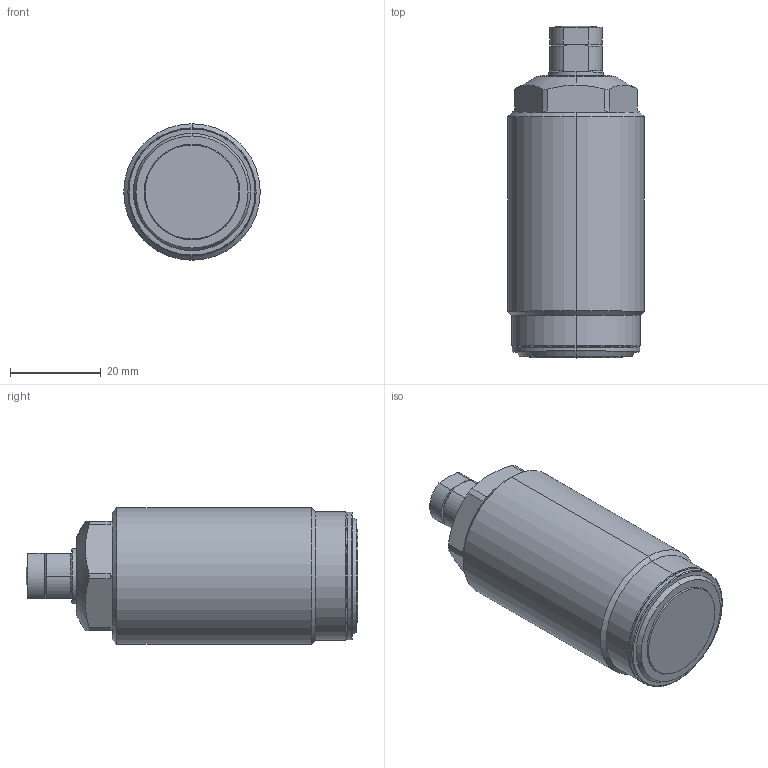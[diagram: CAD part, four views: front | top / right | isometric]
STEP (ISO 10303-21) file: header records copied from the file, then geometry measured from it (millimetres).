
FILE_DESCRIPTION(/* description */ (''),/* implementation_level */ '2;1');
FILE_NAME(/* name */ 'TSC03.stp',/* time_stamp */ '2022-11-16T14:39:44+08:00',/* author */ (''),/* organization */ (''),/* preprocessor_version */ 'ST-DEVELOPER v16.7',/* originating_system */ 'SIEMENS PLM Software NX 12.0',/* authorisation */ '');
FILE_SCHEMA (('AP203_CONFIGURATION_CONTROLLED_3D_DESIGN_OF_MECHANICAL_PARTS_AND_ASSEMBLIES_MIM_LF { 1 0 10303 403 2 1 2}'));
Length unit declared in the file: millimetre
Products named in the file (4): TSC03-02; TSC03-03; TSC03-01; CSY03_step
Assembly tree (3 placements, depth 2):
  CSY03_step
    TSC03-01
    TSC03-03
    TSC03-02
Bounding box: 30 x 73 x 30 mm (x, y, z)
Volume: 41522.4 mm3; surface area: 8746.3 mm2
Topology: 3 solids, 3 shells, 109 faces, 250 edges, 155 vertices
Faces by surface type: cylinder 35, cone 29, plane 25, torus 18, sphere 2
Entity records: 3585 total; most frequent: CARTESIAN_POINT 610, DIRECTION 586, ORIENTED_EDGE 500, AXIS2_PLACEMENT_3D 251, EDGE_CURVE 250, VERTEX_POINT 155, CIRCLE 138, EDGE_LOOP 119
